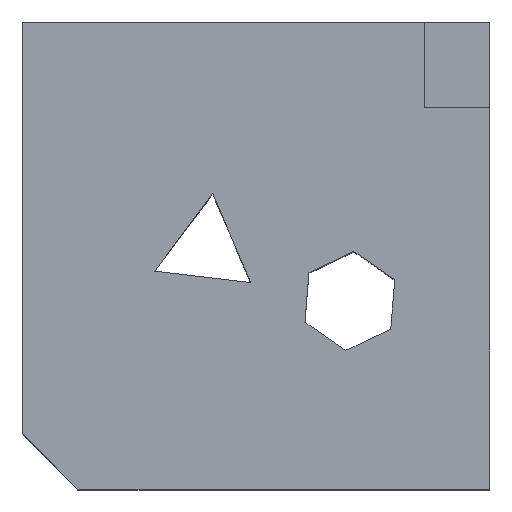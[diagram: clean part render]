
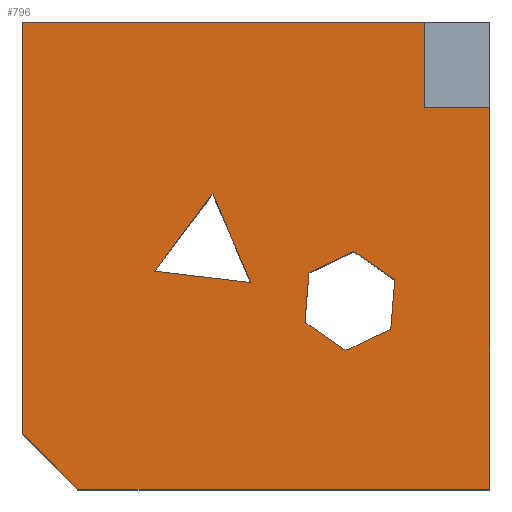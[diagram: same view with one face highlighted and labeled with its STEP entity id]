
A CAD part, top view. The second image highlights one B-rep face of the part: STEP entity #796.
In plain terms, the highlighted planar face has unit normal (0, 0, 1).
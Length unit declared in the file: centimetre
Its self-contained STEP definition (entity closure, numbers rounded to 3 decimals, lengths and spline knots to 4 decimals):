
#25 = EDGE_LOOP ( 'NONE', ( #1343, #652, #215 ) ) ;
#37 = LINE ( 'NONE', #1255, #1263 ) ;
#48 = DIRECTION ( 'NONE',  ( -0.822, 0.569, 0. ) ) ;
#54 = DIRECTION ( 'NONE',  ( 1., 0., 0. ) ) ;
#63 = EDGE_CURVE ( 'NONE', #1316, #159, #250, .T. ) ;
#66 = LINE ( 'NONE', #714, #697 ) ;
#67 = CARTESIAN_POINT ( 'NONE',  ( 692.1967, 296.8918, 1000. ) ) ;
#69 = DIRECTION ( 'NONE',  ( 1., 0., 0. ) ) ;
#79 = DIRECTION ( 'NONE',  ( 0.599, 0.801, 0. ) ) ;
#94 = VERTEX_POINT ( 'NONE', #1134 ) ;
#108 = DIRECTION ( 'NONE',  ( 0.904, 0.427, 0. ) ) ;
#129 = ORIENTED_EDGE ( 'NONE', *, *, #601, .T. ) ;
#134 = VERTEX_POINT ( 'NONE', #1144 ) ;
#135 = CARTESIAN_POINT ( 'NONE',  ( 283.1498, 466.81, 1000. ) ) ;
#137 = DIRECTION ( 'NONE',  ( -0.993, 0.119, 0. ) ) ;
#138 = VECTOR ( 'NONE', #1396, 100. ) ;
#159 = VERTEX_POINT ( 'NONE', #830 ) ;
#173 = EDGE_CURVE ( 'NONE', #902, #134, #66, .T. ) ;
#210 = VECTOR ( 'NONE', #48, 100. ) ;
#215 = ORIENTED_EDGE ( 'NONE', *, *, #921, .T. ) ;
#220 = CARTESIAN_POINT ( 'NONE',  ( 0., 1000., 1000. ) ) ;
#229 = VERTEX_POINT ( 'NONE', #419 ) ;
#250 = LINE ( 'NONE', #695, #368 ) ;
#269 = DIRECTION ( 'NONE',  ( 1., 0., 0. ) ) ;
#288 = CARTESIAN_POINT ( 'NONE',  ( 860.6207, 816.6098, 1000. ) ) ;
#315 = CARTESIAN_POINT ( 'NONE',  ( 407.3179, 632.6752, 1000. ) ) ;
#327 = EDGE_LOOP ( 'NONE', ( #913, #129, #870, #440, #437, #963, #1070 ) ) ;
#368 = VECTOR ( 'NONE', #1129, 100. ) ;
#419 = CARTESIAN_POINT ( 'NONE',  ( 613.4188, 463.5223, 1000. ) ) ;
#421 = CARTESIAN_POINT ( 'NONE',  ( 709.623, 509.0048, 1000. ) ) ;
#422 = CARTESIAN_POINT ( 'NONE',  ( 1000., 1000., 1000. ) ) ;
#431 = EDGE_CURVE ( 'NONE', #94, #545, #37, .T. ) ;
#437 = ORIENTED_EDGE ( 'NONE', *, *, #431, .T. ) ;
#440 = ORIENTED_EDGE ( 'NONE', *, *, #1078, .T. ) ;
#457 = VECTOR ( 'NONE', #672, 100. ) ;
#465 = CARTESIAN_POINT ( 'NONE',  ( 283.1498, 466.81, 1000. ) ) ;
#497 = DIRECTION ( 'NONE',  ( 0.822, -0.569, 0. ) ) ;
#510 = CARTESIAN_POINT ( 'NONE',  ( 59.3872, 59.3872, 1000. ) ) ;
#517 = LINE ( 'NONE', #949, #138 ) ;
#523 = CARTESIAN_POINT ( 'NONE',  ( 0., 118.7744, 1000. ) ) ;
#524 = FACE_BOUND ( 'NONE', #25, .T. ) ;
#545 = VERTEX_POINT ( 'NONE', #641 ) ;
#548 = VECTOR ( 'NONE', #943, 100. ) ;
#552 = VERTEX_POINT ( 'NONE', #1407 ) ;
#559 = CARTESIAN_POINT ( 'NONE',  ( 488.8773, 442.2099, 1000. ) ) ;
#570 = VECTOR ( 'NONE', #841, 100. ) ;
#572 = DIRECTION ( 'NONE',  ( 0.082, 0.997, 0. ) ) ;
#578 = LINE ( 'NONE', #1020, #975 ) ;
#586 = LINE ( 'NONE', #465, #895 ) ;
#597 = VERTEX_POINT ( 'NONE', #220 ) ;
#601 = EDGE_CURVE ( 'NONE', #1316, #597, #1337, .T. ) ;
#607 = VERTEX_POINT ( 'NONE', #135 ) ;
#637 = LINE ( 'NONE', #653, #1307 ) ;
#641 = CARTESIAN_POINT ( 'NONE',  ( 1000., 0., 1000. ) ) ;
#652 = ORIENTED_EDGE ( 'NONE', *, *, #1371, .T. ) ;
#653 = CARTESIAN_POINT ( 'NONE',  ( 488.8773, 442.2099, 1000. ) ) ;
#672 = DIRECTION ( 'NONE',  ( -1., 0., 0. ) ) ;
#680 = CARTESIAN_POINT ( 'NONE',  ( 0., 1000., 1000. ) ) ;
#690 = ORIENTED_EDGE ( 'NONE', *, *, #1132, .T. ) ;
#695 = CARTESIAN_POINT ( 'NONE',  ( 860.6207, 816.6098, 1000. ) ) ;
#696 = CARTESIAN_POINT ( 'NONE',  ( 407.3179, 632.6752, 1000. ) ) ;
#697 = VECTOR ( 'NONE', #497, 100. ) ;
#698 = EDGE_CURVE ( 'NONE', #229, #902, #1419, .T. ) ;
#710 = DIRECTION ( 'NONE',  ( 0., -1., 0. ) ) ;
#711 = LINE ( 'NONE', #288, #1140 ) ;
#714 = CARTESIAN_POINT ( 'NONE',  ( 709.623, 509.0048, 1000. ) ) ;
#720 = CARTESIAN_POINT ( 'NONE',  ( 0., 0., 1000. ) ) ;
#735 = VERTEX_POINT ( 'NONE', #1120 ) ;
#746 = LINE ( 'NONE', #315, #1004 ) ;
#751 = EDGE_CURVE ( 'NONE', #552, #966, #1254, .T. ) ;
#796 = ADVANCED_FACE ( 'NONE', ( #524, #1051, #1397 ), #836, .T. ) ;
#822 = EDGE_CURVE ( 'NONE', #545, #1340, #1043, .T. ) ;
#830 = CARTESIAN_POINT ( 'NONE',  ( 860.6207, 816.6098, 1000. ) ) ;
#836 = PLANE ( 'NONE',  #1402 ) ;
#841 = DIRECTION ( 'NONE',  ( 0., 1., 0. ) ) ;
#848 = DIRECTION ( 'NONE',  ( 0., 0., 1. ) ) ;
#870 = ORIENTED_EDGE ( 'NONE', *, *, #1317, .T. ) ;
#895 = VECTOR ( 'NONE', #137, 100. ) ;
#902 = VERTEX_POINT ( 'NONE', #421 ) ;
#903 = CARTESIAN_POINT ( 'NONE',  ( 1000., 816.6098, 1000. ) ) ;
#913 = ORIENTED_EDGE ( 'NONE', *, *, #63, .F. ) ;
#921 = EDGE_CURVE ( 'NONE', #607, #1380, #746, .T. ) ;
#922 = LINE ( 'NONE', #1252, #1115 ) ;
#930 = EDGE_CURVE ( 'NONE', #1380, #1012, #637, .T. ) ;
#943 = DIRECTION ( 'NONE',  ( 0.707, -0.707, 0. ) ) ;
#949 = CARTESIAN_POINT ( 'NONE',  ( 797.114, 448.4307, 1000. ) ) ;
#960 = VERTEX_POINT ( 'NONE', #523 ) ;
#963 = ORIENTED_EDGE ( 'NONE', *, *, #822, .T. ) ;
#966 = VERTEX_POINT ( 'NONE', #1179 ) ;
#975 = VECTOR ( 'NONE', #572, 100. ) ;
#1004 = VECTOR ( 'NONE', #79, 100. ) ;
#1012 = VERTEX_POINT ( 'NONE', #559 ) ;
#1020 = CARTESIAN_POINT ( 'NONE',  ( 604.7056, 357.4658, 1000. ) ) ;
#1029 = CARTESIAN_POINT ( 'NONE',  ( 860.6207, 1000., 1000. ) ) ;
#1030 = CARTESIAN_POINT ( 'NONE',  ( 788.4009, 342.3742, 1000. ) ) ;
#1043 = LINE ( 'NONE', #422, #570 ) ;
#1049 = LINE ( 'NONE', #67, #210 ) ;
#1051 = FACE_OUTER_BOUND ( 'NONE', #327, .T. ) ;
#1057 = ORIENTED_EDGE ( 'NONE', *, *, #173, .T. ) ;
#1060 = EDGE_CURVE ( 'NONE', #159, #1340, #711, .T. ) ;
#1070 = ORIENTED_EDGE ( 'NONE', *, *, #1060, .F. ) ;
#1078 = EDGE_CURVE ( 'NONE', #960, #94, #1164, .T. ) ;
#1088 = CARTESIAN_POINT ( 'NONE',  ( 613.4188, 463.5223, 1000. ) ) ;
#1093 = VECTOR ( 'NONE', #1370, 100. ) ;
#1102 = ORIENTED_EDGE ( 'NONE', *, *, #698, .T. ) ;
#1115 = VECTOR ( 'NONE', #710, 100. ) ;
#1120 = CARTESIAN_POINT ( 'NONE',  ( 604.7056, 357.4658, 1000. ) ) ;
#1129 = DIRECTION ( 'NONE',  ( 0., -1., 0. ) ) ;
#1132 = EDGE_CURVE ( 'NONE', #134, #552, #517, .T. ) ;
#1134 = CARTESIAN_POINT ( 'NONE',  ( 118.7744, 0., 1000. ) ) ;
#1140 = VECTOR ( 'NONE', #54, 100. ) ;
#1144 = CARTESIAN_POINT ( 'NONE',  ( 797.114, 448.4307, 1000. ) ) ;
#1164 = LINE ( 'NONE', #510, #548 ) ;
#1179 = CARTESIAN_POINT ( 'NONE',  ( 692.1967, 296.8918, 1000. ) ) ;
#1181 = EDGE_LOOP ( 'NONE', ( #1336, #1102, #1057, #690, #1217, #1238 ) ) ;
#1185 = VECTOR ( 'NONE', #108, 100. ) ;
#1217 = ORIENTED_EDGE ( 'NONE', *, *, #751, .T. ) ;
#1238 = ORIENTED_EDGE ( 'NONE', *, *, #1271, .T. ) ;
#1252 = CARTESIAN_POINT ( 'NONE',  ( 0., 1000., 1000. ) ) ;
#1254 = LINE ( 'NONE', #1030, #1093 ) ;
#1255 = CARTESIAN_POINT ( 'NONE',  ( 0., 0., 1000. ) ) ;
#1263 = VECTOR ( 'NONE', #269, 100. ) ;
#1271 = EDGE_CURVE ( 'NONE', #966, #735, #1049, .T. ) ;
#1307 = VECTOR ( 'NONE', #1417, 100. ) ;
#1316 = VERTEX_POINT ( 'NONE', #1029 ) ;
#1317 = EDGE_CURVE ( 'NONE', #597, #960, #922, .T. ) ;
#1336 = ORIENTED_EDGE ( 'NONE', *, *, #1381, .T. ) ;
#1337 = LINE ( 'NONE', #680, #457 ) ;
#1340 = VERTEX_POINT ( 'NONE', #903 ) ;
#1343 = ORIENTED_EDGE ( 'NONE', *, *, #930, .T. ) ;
#1370 = DIRECTION ( 'NONE',  ( -0.904, -0.427, 0. ) ) ;
#1371 = EDGE_CURVE ( 'NONE', #1012, #607, #586, .T. ) ;
#1380 = VERTEX_POINT ( 'NONE', #696 ) ;
#1381 = EDGE_CURVE ( 'NONE', #735, #229, #578, .T. ) ;
#1396 = DIRECTION ( 'NONE',  ( -0.082, -0.997, 0. ) ) ;
#1397 = FACE_BOUND ( 'NONE', #1181, .T. ) ;
#1402 = AXIS2_PLACEMENT_3D ( 'NONE', #720, #848, #69 ) ;
#1407 = CARTESIAN_POINT ( 'NONE',  ( 788.4009, 342.3742, 1000. ) ) ;
#1417 = DIRECTION ( 'NONE',  ( 0.394, -0.919, 0. ) ) ;
#1419 = LINE ( 'NONE', #1088, #1185 ) ;
